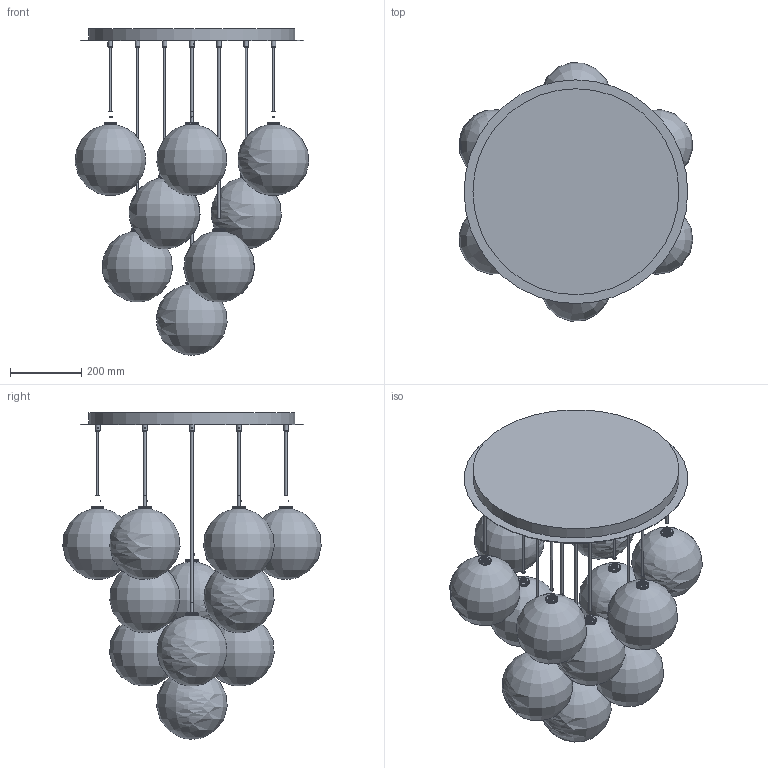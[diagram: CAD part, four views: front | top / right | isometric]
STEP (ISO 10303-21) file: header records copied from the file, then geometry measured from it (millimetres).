
FILE_DESCRIPTION(/* description */ (''),/* implementation_level */ '2;1');
FILE_NAME(/* name */ 'T:\B212 Cluster 13 Glass Globe 200\Pliki bryłowe handlowe\B212 Cluster 13 3D files\B212 Cluster 13.stp',/* time_stamp */ '2022-01-25T15:56:15+01:00',/* author */ ('Mariusz Awariusz'),/* organization */ (''),/* preprocessor_version */ 'ST-DEVELOPER v18.1',/* originating_system */ 'Autodesk Inventor 2022',/* authorisation */ '');
FILE_SCHEMA (('AUTOMOTIVE_DESIGN { 1 0 10303 214 3 1 1 }'));
Length unit declared in the file: millimetre
Products named in the file (1): B212 Cluster 13 Glass Globe 200 CE_na potrzeby plików 3D_2_jako c
zęść
Bounding box: 658.24 x 727.91 x 919.49 mm (x, y, z)
Volume: 12479004.6 mm3; surface area: 4053856.9 mm2
Topology: 1 solids, 27 shells, 770 faces, 1712 edges, 1112 vertices
Faces by surface type: cylinder 252, plane 233, cone 220, bspline 39, torus 26
Full cylindrical faces by diameter (mm): 3 x64, 7 x13, 11 x13, 13 x52, 19.8 x13, 25.221 x13, 33 x13, 35 x13, 580 x1, 630 x1
Entity records: 25057 total; most frequent: CARTESIAN_POINT 7716, DIRECTION 3823, ORIENTED_EDGE 3372, AXIS2_PLACEMENT_3D 1691, EDGE_CURVE 1686, VERTEX_POINT 1112, EDGE_LOOP 1002, CIRCLE 959
